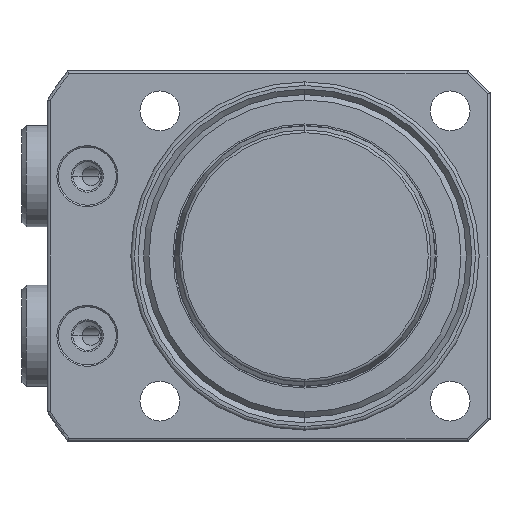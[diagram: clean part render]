
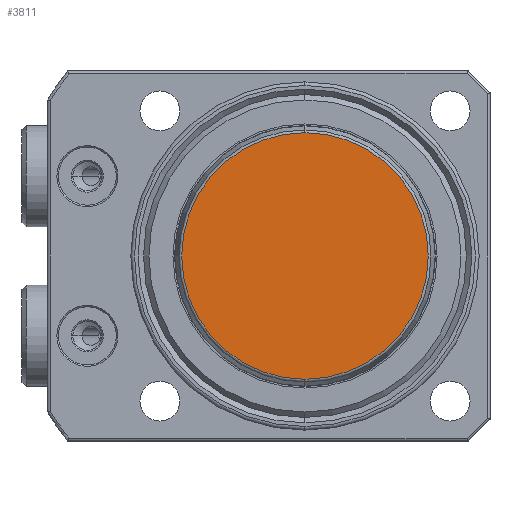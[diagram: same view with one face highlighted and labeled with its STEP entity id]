
A CAD part, front view. The second image highlights one B-rep face of the part: STEP entity #3811.
In plain terms, the highlighted planar face has unit normal (0, -1, 0).
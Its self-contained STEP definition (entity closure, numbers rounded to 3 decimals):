
#352 = CARTESIAN_POINT ( 'NONE',  ( 0., -2., 0. ) ) ;
#702 = DIRECTION ( 'NONE',  ( 0., -1., 0. ) ) ;
#743 = CARTESIAN_POINT ( 'NONE',  ( 0., -2., 16.992 ) ) ;
#843 = DIRECTION ( 'NONE',  ( 0., 1., 0. ) ) ;
#934 = CIRCLE ( 'NONE', #1073, 16.992 ) ;
#961 = DIRECTION ( 'NONE',  ( 0., 0., 1. ) ) ;
#1073 = AXIS2_PLACEMENT_3D ( 'NONE', #352, #4534, #961 ) ;
#1833 = CIRCLE ( 'NONE', #1991, 16.992 ) ;
#1991 = AXIS2_PLACEMENT_3D ( 'NONE', #4282, #702, #4889 ) ;
#2550 = AXIS2_PLACEMENT_3D ( 'NONE', #7423, #843, #5018 ) ;
#3387 = ORIENTED_EDGE ( 'NONE', *, *, #4189, .T. ) ;
#3811 = ADVANCED_FACE ( 'NONE', ( #5124 ), #5616, .F. ) ;
#4059 = VERTEX_POINT ( 'NONE', #7654 ) ;
#4189 = EDGE_CURVE ( 'NONE', #5285, #4059, #1833, .T. ) ;
#4282 = CARTESIAN_POINT ( 'NONE',  ( 0., -2., 0. ) ) ;
#4534 = DIRECTION ( 'NONE',  ( 0., -1., 0. ) ) ;
#4889 = DIRECTION ( 'NONE',  ( 0., 0., 1. ) ) ;
#5018 = DIRECTION ( 'NONE',  ( 0., 0., 1. ) ) ;
#5124 = FACE_OUTER_BOUND ( 'NONE', #5478, .T. ) ;
#5285 = VERTEX_POINT ( 'NONE', #743 ) ;
#5478 = EDGE_LOOP ( 'NONE', ( #3387, #7722 ) ) ;
#5616 = PLANE ( 'NONE',  #2550 ) ;
#6491 = EDGE_CURVE ( 'NONE', #4059, #5285, #934, .T. ) ;
#7423 = CARTESIAN_POINT ( 'NONE',  ( 17.272, -2., 0. ) ) ;
#7654 = CARTESIAN_POINT ( 'NONE',  ( 0., -2., -16.992 ) ) ;
#7722 = ORIENTED_EDGE ( 'NONE', *, *, #6491, .T. ) ;
